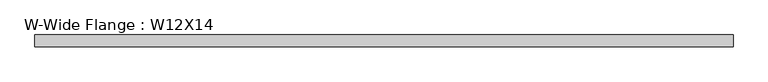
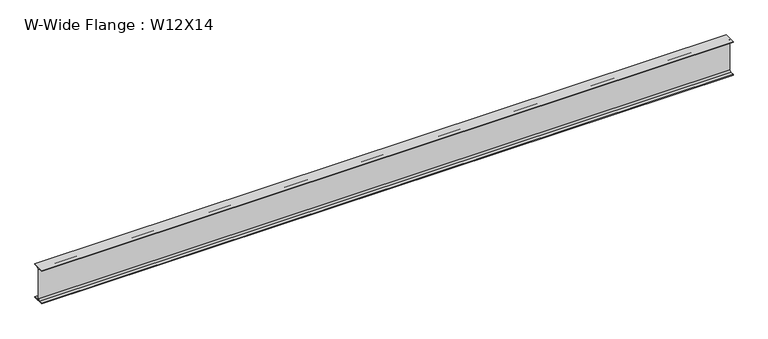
"""IFC4 building model written with IfcOpenShell, lengths in millimetres: beam geometry, W-Wide Flange : W12X14."""

from ifc_helpers import new_model, si_unit, point, frame, frame_2d, origin, place, context, project, spatial, polyline, circle_curve, trimmed, segment, composite_curve, outline, extrude, source, transform, mapped, element, save


def w_wide_flange_w12x14_c1d14cf3(model_context):
    return source(origin(), model_context, "Body", "SweptSolid", [
        extrude(outline(composite_curve([segment(polyline([(50.419, -145.415), (50.419, -151.13), (-50.419, -151.13), (-50.419, -145.415), (-15.875, -145.415)]), True, "CONTINUOUS"), segment(trimmed(circle_curve(frame_2d((-15.875, -132.08)), 13.335), [point((-15.875, -145.415))], [point((-2.54, -132.08))], True, "CARTESIAN"), True, "CONTINUOUS"), segment(polyline([(-2.54, -132.08), (-2.54, 132.08)]), True, "CONTINUOUS"), segment(trimmed(circle_curve(frame_2d((-15.875, 132.08)), 13.335), [point((-2.54, 132.08))], [point((-15.875, 145.415))], True, "CARTESIAN"), True, "CONTINUOUS"), segment(polyline([(-15.875, 145.415), (-50.419, 145.415), (-50.419, 151.13), (50.419, 151.13), (50.419, 145.415), (15.875, 145.415)]), True, "CONTINUOUS"), segment(trimmed(circle_curve(frame_2d((15.875, 132.08)), 13.335), [point((15.875, 145.415))], [point((2.54, 132.08))], True, "CARTESIAN"), True, "CONTINUOUS"), segment(polyline([(2.54, 132.08), (2.54, -132.08)]), True, "CONTINUOUS"), segment(trimmed(circle_curve(frame_2d((15.875, -132.08)), 13.335), [point((2.54, -132.08))], [point((15.875, -145.415))], True, "CARTESIAN"), True, "CONTINUOUS"), segment(polyline([(15.875, -145.415), (50.419, -145.415)]), True, "CONTINUOUS")], self_intersect=False)), frame((-2965.45, 0.0, 0.0), z_axis=(1.0, 0.0, 0.0), x_axis=(0.0, 1.0, 0.0)), (0.0, 0.0, 1.0), 5924.296),
    ])


if __name__ == "__main__":
    model = new_model("IFC4")
    model_context = context("Model", 3, world=origin())
    ifc_project = project(units=[si_unit("LENGTHUNIT", "METRE", prefix="MILLI")], contexts=[model_context])
    site = spatial("IfcSite", under=ifc_project)
    building = spatial("IfcBuilding", under=site)
    placement = place(None, origin())
    w_wide_flange_w12x14_shape = w_wide_flange_w12x14_c1d14cf3(model_context)
    element("IfcBeam", 1, ObjectType="W-Wide Flange : W12X14", at=placement, inside=building, context=model_context, shape_type="MappedRepresentation", body=[
        mapped(w_wide_flange_w12x14_shape, transform((0.0, 0.0, 0.0), x_axis=(1.0, 0.0, 0.0), y_axis=(0.0, 1.0, 0.0), z_axis=(0.0, 0.0, 1.0))),
    ])
    save(model, "model.ifc")
